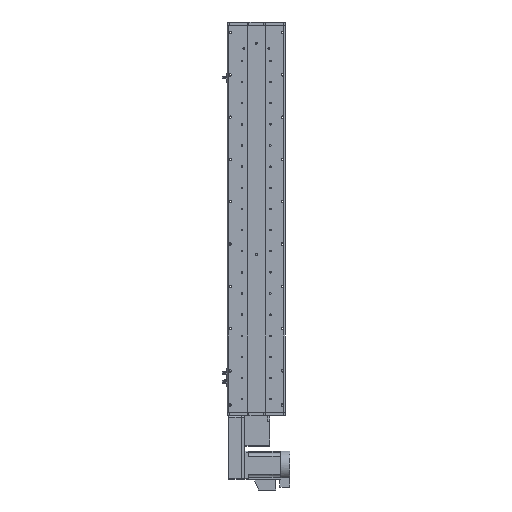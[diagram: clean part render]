
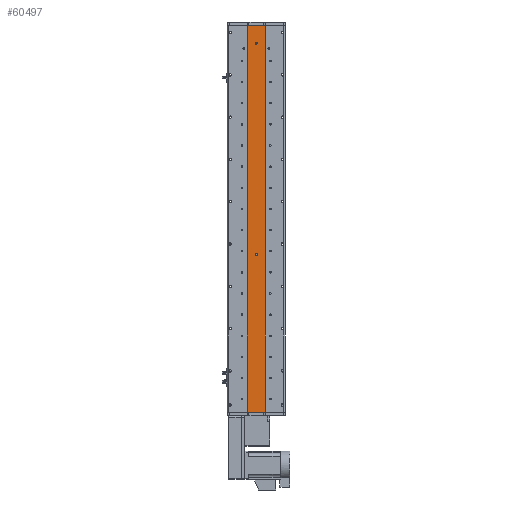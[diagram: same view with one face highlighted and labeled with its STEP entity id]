
A CAD part, front view. The second image highlights one B-rep face of the part: STEP entity #60497.
In plain terms, the highlighted planar face has unit normal (0, -1, 0).
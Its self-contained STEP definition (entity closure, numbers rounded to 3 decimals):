
#418 = VERTEX_POINT ( 'NONE', #26964 ) ;
#569 = ORIENTED_EDGE ( 'NONE', *, *, #2392, .F. ) ;
#2392 = EDGE_CURVE ( 'NONE', #25938, #37483, #61677, .T. ) ;
#3221 = DIRECTION ( 'NONE',  ( 0., 0., -1. ) ) ;
#3354 = CARTESIAN_POINT ( 'NONE',  ( 25., 1., -548.5 ) ) ;
#3424 = FACE_BOUND ( 'NONE', #16601, .T. ) ;
#4382 = CARTESIAN_POINT ( 'NONE',  ( 25., 1., -548.5 ) ) ;
#5890 = ORIENTED_EDGE ( 'NONE', *, *, #48676, .F. ) ;
#7136 = VECTOR ( 'NONE', #19422, 1000. ) ;
#10296 = VERTEX_POINT ( 'NONE', #42748 ) ;
#11279 = EDGE_CURVE ( 'NONE', #25938, #38630, #19531, .T. ) ;
#11438 = AXIS2_PLACEMENT_3D ( 'NONE', #45296, #15497, #50328 ) ;
#11658 = CARTESIAN_POINT ( 'NONE',  ( -25., 1., 548.5 ) ) ;
#12197 = CARTESIAN_POINT ( 'NONE',  ( -25., 1., -548.5 ) ) ;
#13441 = DIRECTION ( 'NONE',  ( 0., 1., 0. ) ) ;
#13910 = DIRECTION ( 'NONE',  ( 0., -1., 0. ) ) ;
#14156 = DIRECTION ( 'NONE',  ( 1., 0., 0. ) ) ;
#14324 = AXIS2_PLACEMENT_3D ( 'NONE', #62790, #33039, #3221 ) ;
#15497 = DIRECTION ( 'NONE',  ( 0., -1., 0. ) ) ;
#16375 = CIRCLE ( 'NONE', #49995, 3. ) ;
#16601 = EDGE_LOOP ( 'NONE', ( #44857, #57089 ) ) ;
#17040 = CIRCLE ( 'NONE', #45405, 3. ) ;
#18911 = EDGE_CURVE ( 'NONE', #45860, #10296, #53077, .T. ) ;
#19422 = DIRECTION ( 'NONE',  ( 1., 0., 0. ) ) ;
#19531 = LINE ( 'NONE', #11658, #31256 ) ;
#19932 = EDGE_LOOP ( 'NONE', ( #41445, #5890 ) ) ;
#20679 = ORIENTED_EDGE ( 'NONE', *, *, #63097, .F. ) ;
#21967 = VERTEX_POINT ( 'NONE', #51219 ) ;
#23436 = VECTOR ( 'NONE', #46865, 1000. ) ;
#24270 = AXIS2_PLACEMENT_3D ( 'NONE', #63016, #13441, #48259 ) ;
#25017 = LINE ( 'NONE', #31863, #23436 ) ;
#25098 = CIRCLE ( 'NONE', #14324, 3. ) ;
#25891 = CARTESIAN_POINT ( 'NONE',  ( 0., 1., -101.5 ) ) ;
#25938 = VERTEX_POINT ( 'NONE', #40196 ) ;
#25990 = ORIENTED_EDGE ( 'NONE', *, *, #11279, .T. ) ;
#26964 = CARTESIAN_POINT ( 'NONE',  ( 0., 1., 495.5 ) ) ;
#28317 = FACE_OUTER_BOUND ( 'NONE', #33782, .T. ) ;
#29618 = LINE ( 'NONE', #4382, #56065 ) ;
#30949 = DIRECTION ( 'NONE',  ( 0., 0., -1. ) ) ;
#31256 = VECTOR ( 'NONE', #51524, 1000. ) ;
#31863 = CARTESIAN_POINT ( 'NONE',  ( 25., 1., 548.5 ) ) ;
#33039 = DIRECTION ( 'NONE',  ( 0., -1., 0. ) ) ;
#33782 = EDGE_LOOP ( 'NONE', ( #50335, #20679, #569, #25990 ) ) ;
#37483 = VERTEX_POINT ( 'NONE', #42750 ) ;
#37597 = EDGE_CURVE ( 'NONE', #21967, #418, #25098, .T. ) ;
#38130 = VERTEX_POINT ( 'NONE', #3354 ) ;
#38258 = PLANE ( 'NONE',  #24270 ) ;
#38630 = VERTEX_POINT ( 'NONE', #12197 ) ;
#40196 = CARTESIAN_POINT ( 'NONE',  ( -25., 1., 548.5 ) ) ;
#41445 = ORIENTED_EDGE ( 'NONE', *, *, #18911, .F. ) ;
#42748 = CARTESIAN_POINT ( 'NONE',  ( 0., 1., -98.5 ) ) ;
#42750 = CARTESIAN_POINT ( 'NONE',  ( 25., 1., 548.5 ) ) ;
#43727 = CARTESIAN_POINT ( 'NONE',  ( 0., 1., 498.5 ) ) ;
#44469 = CARTESIAN_POINT ( 'NONE',  ( 25., 1., 548.5 ) ) ;
#44857 = ORIENTED_EDGE ( 'NONE', *, *, #63727, .F. ) ;
#45296 = CARTESIAN_POINT ( 'NONE',  ( 0., 1., -101.5 ) ) ;
#45405 = AXIS2_PLACEMENT_3D ( 'NONE', #25891, #60712, #30949 ) ;
#45860 = VERTEX_POINT ( 'NONE', #47967 ) ;
#46865 = DIRECTION ( 'NONE',  ( 0., 0., -1. ) ) ;
#47967 = CARTESIAN_POINT ( 'NONE',  ( 0., 1., -104.5 ) ) ;
#48259 = DIRECTION ( 'NONE',  ( 0., 0., 1. ) ) ;
#48676 = EDGE_CURVE ( 'NONE', #10296, #45860, #17040, .T. ) ;
#48740 = DIRECTION ( 'NONE',  ( 0., 0., -1. ) ) ;
#49995 = AXIS2_PLACEMENT_3D ( 'NONE', #43727, #13910, #48740 ) ;
#50328 = DIRECTION ( 'NONE',  ( 0., 0., -1. ) ) ;
#50335 = ORIENTED_EDGE ( 'NONE', *, *, #54577, .T. ) ;
#51219 = CARTESIAN_POINT ( 'NONE',  ( 0., 1., 501.5 ) ) ;
#51524 = DIRECTION ( 'NONE',  ( 0., 0., -1. ) ) ;
#53077 = CIRCLE ( 'NONE', #11438, 3. ) ;
#53262 = FACE_BOUND ( 'NONE', #19932, .T. ) ;
#54577 = EDGE_CURVE ( 'NONE', #38630, #38130, #29618, .T. ) ;
#56065 = VECTOR ( 'NONE', #14156, 1000. ) ;
#57089 = ORIENTED_EDGE ( 'NONE', *, *, #37597, .F. ) ;
#60497 = ADVANCED_FACE ( 'NONE', ( #3424, #53262, #28317 ), #38258, .F. ) ;
#60712 = DIRECTION ( 'NONE',  ( 0., -1., 0. ) ) ;
#61677 = LINE ( 'NONE', #44469, #7136 ) ;
#62790 = CARTESIAN_POINT ( 'NONE',  ( 0., 1., 498.5 ) ) ;
#63016 = CARTESIAN_POINT ( 'NONE',  ( 25., 1., 548.5 ) ) ;
#63097 = EDGE_CURVE ( 'NONE', #37483, #38130, #25017, .T. ) ;
#63727 = EDGE_CURVE ( 'NONE', #418, #21967, #16375, .T. ) ;
